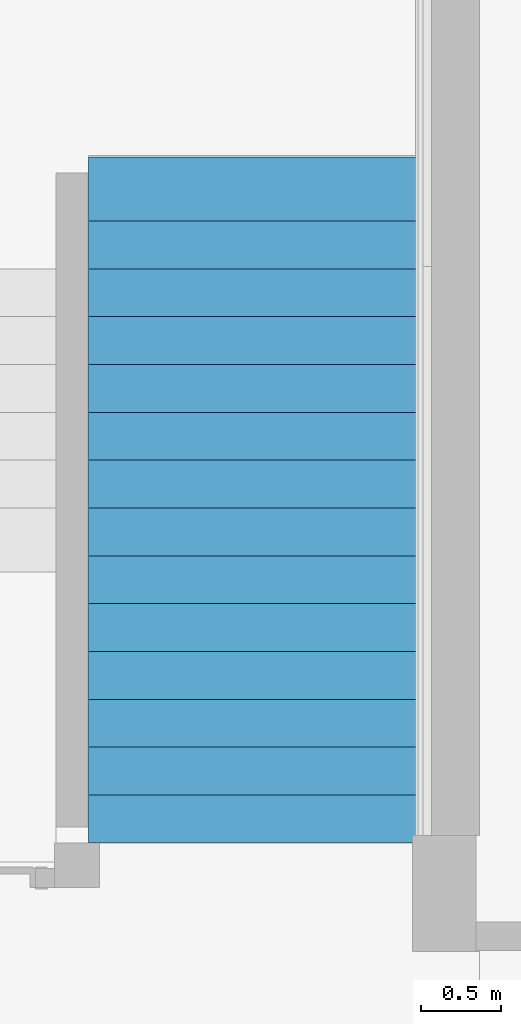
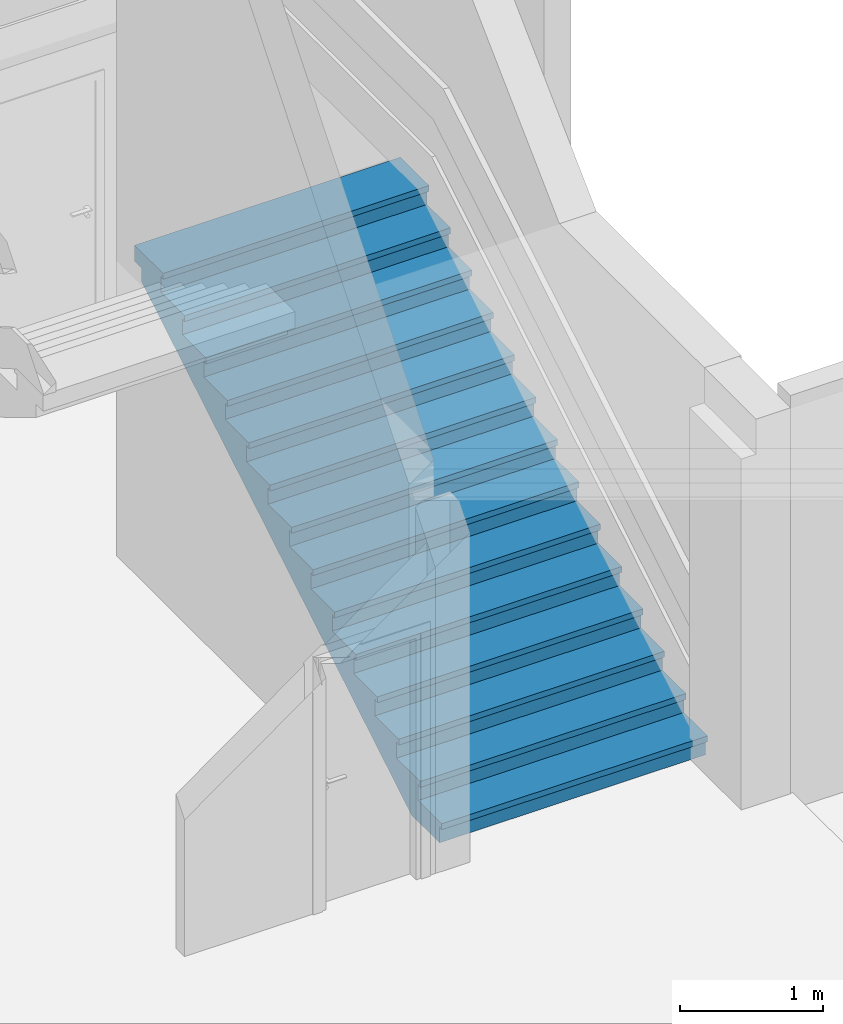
# One storey, part 101 of 117: 1 stair flight, 1 element without a shape of its own.
"""IFC4 building model written with IfcOpenShell, lengths in metres."""

from ifc_helpers import new_model, entity, si_unit, converted_unit, derived_unit, direction, frame, origin, place, context, subcontext, project, spatial, polygons, material, constituent, constituent_set, type_object, element, aggregate, save


model = new_model("IFC4")

# Units and contexts
model_context = context("Model", 3, precision=1e-05, world=origin(), true_north=direction((6.123031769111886e-17, 1.0)))
body_context = subcontext(model_context, "Body", "Model", "MODEL_VIEW")
ifc_project = project(units=[si_unit("LENGTHUNIT", "METRE"), si_unit("AREAUNIT", "SQUARE_METRE"), si_unit("VOLUMEUNIT", "CUBIC_METRE"), converted_unit("PLANEANGLEUNIT", "DEGREE", entity("IfcRatioMeasure", 0.017453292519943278), si_unit("PLANEANGLEUNIT", "RADIAN"), dimensions=[0, 0, 0, 0, 0, 0, 0]), si_unit("MASSUNIT", "GRAM", prefix="KILO"), derived_unit("MASSDENSITYUNIT", [(si_unit("MASSUNIT", "GRAM", prefix="KILO"), 1), (si_unit("LENGTHUNIT", "METRE"), -3)]), derived_unit("MOMENTOFINERTIAUNIT", [(si_unit("LENGTHUNIT", "METRE"), 4)]), si_unit("TIMEUNIT", "SECOND"), si_unit("FREQUENCYUNIT", "HERTZ"), si_unit("THERMODYNAMICTEMPERATUREUNIT", "DEGREE_CELSIUS"), derived_unit("THERMALTRANSMITTANCEUNIT", [(si_unit("MASSUNIT", "GRAM", prefix="KILO"), 1), (si_unit("THERMODYNAMICTEMPERATUREUNIT", "KELVIN"), -1), (si_unit("TIMEUNIT", "SECOND"), -3)]), derived_unit("VOLUMETRICFLOWRATEUNIT", [(si_unit("LENGTHUNIT", "METRE"), 3), (si_unit("TIMEUNIT", "SECOND"), -1)]), derived_unit("MASSFLOWRATEUNIT", [(si_unit("MASSUNIT", "GRAM", prefix="KILO"), 1), (si_unit("TIMEUNIT", "SECOND"), -1)]), derived_unit("ROTATIONALFREQUENCYUNIT", [(si_unit("TIMEUNIT", "SECOND"), -1)]), si_unit("ELECTRICCURRENTUNIT", "AMPERE"), si_unit("ELECTRICVOLTAGEUNIT", "VOLT"), si_unit("POWERUNIT", "WATT"), si_unit("FORCEUNIT", "NEWTON", prefix="KILO"), si_unit("ILLUMINANCEUNIT", "LUX"), si_unit("LUMINOUSFLUXUNIT", "LUMEN"), si_unit("LUMINOUSINTENSITYUNIT", "CANDELA"), derived_unit("USERDEFINED", [(si_unit("MASSUNIT", "GRAM", prefix="KILO"), -1), (si_unit("LENGTHUNIT", "METRE"), -2), (si_unit("TIMEUNIT", "SECOND"), 3), (si_unit("LUMINOUSFLUXUNIT", "LUMEN"), 1)]), derived_unit("SOUNDPOWERUNIT", [(si_unit("MASSUNIT", "GRAM", prefix="KILO"), 1), (si_unit("LENGTHUNIT", "METRE"), 2), (si_unit("TIMEUNIT", "SECOND"), -3)]), derived_unit("SOUNDPRESSUREUNIT", [(si_unit("MASSUNIT", "GRAM", prefix="KILO"), 1), (si_unit("LENGTHUNIT", "METRE"), -1), (si_unit("TIMEUNIT", "SECOND"), -2)]), derived_unit("LINEARVELOCITYUNIT", [(si_unit("LENGTHUNIT", "METRE"), 1), (si_unit("TIMEUNIT", "SECOND"), -1)]), si_unit("PRESSUREUNIT", "PASCAL"), derived_unit("USERDEFINED", [(si_unit("LENGTHUNIT", "METRE"), -2), (si_unit("MASSUNIT", "GRAM", prefix="KILO"), 1), (si_unit("TIMEUNIT", "SECOND"), -2)]), derived_unit("LINEARFORCEUNIT", [(si_unit("MASSUNIT", "GRAM", prefix="KILO"), 1), (si_unit("LENGTHUNIT", "METRE"), 1), (si_unit("TIMEUNIT", "SECOND"), -2), (si_unit("LENGTHUNIT", "METRE"), -1)]), derived_unit("PLANARFORCEUNIT", [(si_unit("MASSUNIT", "GRAM", prefix="KILO"), 1), (si_unit("LENGTHUNIT", "METRE"), 1), (si_unit("TIMEUNIT", "SECOND"), -2), (si_unit("LENGTHUNIT", "METRE"), -2)])], contexts=[model_context])

# Site, building, storey
site_placement = place(None, origin())
site = spatial("IfcSite", under=ifc_project, at=site_placement, Name="Superficie", CompositionType="ELEMENT")
building_placement = place(site_placement, origin())
building = spatial("IfcBuilding", under=site, at=building_placement, CompositionType="ELEMENT")
storey_placement = place(building_placement, origin())
storey = spatial("IfcBuildingStorey", under=building, at=storey_placement, Name="Nivel 0", CompositionType="ELEMENT", Elevation=0.0)

# Stair, stair flight
stair_type = type_object("IfcStairType", Name="Escalera prefabricada:Escalera prefabricada", PredefinedType="HALF_TURN_STAIR")
stair_placement = place(storey_placement, origin())
stair = element("IfcStair", 1, at=stair_placement, inside=storey, type_object=stair_type, Name="Escalera prefabricada:Escalera", ObjectType="Escalera prefabricada:Escalera prefabricada", PredefinedType="HALF_TURN_STAIR")
ifc_material_1 = material(Name="Cerámica blanca", Category="Cerámica")
ifc_constituent_1 = constituent(ifc_material_1, Name="Cerámica blanca", Category="Cerámica")
ifc_material_2 = material(Name="Hormigón", Category="Hormigón")
ifc_constituent_2 = constituent(ifc_material_2, Name="Hormigón", Category="Hormigón")
ifc_constituent_set = constituent_set(constituents=[ifc_constituent_1, ifc_constituent_2], Name="MaterialConstituentSet")
stair_flight_type = type_object("IfcStairFlightType", Name="Tramo monolítico:Huella 40 mm Mamperlán 30 mm Contrahuella 15 mm", PredefinedType="STRAIGHT")
stair_flight_placement = place(stair_placement, frame((23.226799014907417, -3.4641708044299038, 0.0)))
stair_flight = element("IfcStairFlight", 2, at=stair_flight_placement, type_object=stair_flight_type, material=ifc_constituent_set, Name="Escalera prefabricada:Escalera:227558 Run 1", ObjectType="Tramo monolítico:Huella 40 mm Mamperlán 30 mm Contrahuella 15 mm", PredefinedType="STRAIGHT", context=body_context, shape_type="Tessellation", body=[
    polygons([(2.1499999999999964, -5.414335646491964e-16, 0.13), (2.1499999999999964, -5.414335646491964e-16, 0.18), (0.0, -5.414335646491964e-16, 0.18), (0.0, -5.414335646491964e-16, 0.13), (2.1499999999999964, 0.023000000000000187, 0.13), (0.0, 0.023000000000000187, 0.13), (2.1499999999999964, 0.022999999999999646, 0.13999999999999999), (0.0, 0.022999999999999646, 0.13999999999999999), (2.1499999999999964, 0.3450000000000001, 0.18), (0.0, 0.3450000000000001, 0.18), (0.0, 0.3450000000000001, 0.13999999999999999), (2.1499999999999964, 0.3450000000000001, 0.13999999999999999)], [[[1, 2, 3, 4]], [[5, 1, 4, 6]], [[7, 5, 6, 8]], [[3, 2, 9, 10]], [[11, 12, 7, 8]], [[3, 10, 11, 8, 6, 4]], [[9, 2, 1, 5, 7, 12]], [[10, 9, 12, 11]]], closed=True),
    polygons([(2.1499999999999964, 0.030000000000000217, 0.13999999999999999), (2.1499999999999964, 0.030000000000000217, 0.0), (2.1499999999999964, 0.04499999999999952, 0.0), (2.1499999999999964, 0.04499999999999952, 0.13999999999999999), (0.0, 0.030000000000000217, 0.13999999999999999), (0.0, 0.04499999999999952, 0.13999999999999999), (0.0, 0.04499999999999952, 0.0), (0.0, 0.030000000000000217, 0.0)], [[[1, 2, 3, 4]], [[5, 6, 7, 8]], [[2, 1, 5, 8]], [[3, 2, 8, 7]], [[4, 3, 7, 6]], [[1, 4, 6, 5]]], closed=True),
    polygons([(2.1499999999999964, 0.3299999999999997, 0.32), (2.1499999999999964, 0.3299999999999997, 0.18), (2.1499999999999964, 0.34499999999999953, 0.18000000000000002), (2.1499999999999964, 0.34499999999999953, 0.32), (0.0, 0.3299999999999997, 0.32), (0.0, 0.34499999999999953, 0.32), (0.0, 0.34499999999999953, 0.18000000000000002), (0.0, 0.3299999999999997, 0.18)], [[[1, 2, 3, 4]], [[5, 6, 7, 8]], [[2, 1, 5, 8]], [[3, 2, 8, 7]], [[4, 3, 7, 6]], [[1, 4, 6, 5]]], closed=True),
    polygons([(0.0, 0.30000000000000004, 0.36), (2.1499999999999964, 0.30000000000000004, 0.36), (2.1499999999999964, 0.6450000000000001, 0.36), (0.0, 0.6450000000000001, 0.36), (0.0, 0.6450000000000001, 0.32), (2.1499999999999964, 0.6450000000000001, 0.32), (2.1499999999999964, 0.3229999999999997, 0.32), (0.0, 0.3229999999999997, 0.32), (0.0, 0.3229999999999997, 0.31), (0.0, 0.30000000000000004, 0.31), (2.1499999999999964, 0.30000000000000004, 0.31), (2.1499999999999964, 0.3229999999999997, 0.31)], [[[1, 2, 3, 4]], [[5, 6, 7, 8]], [[1, 4, 5, 8, 9, 10]], [[3, 2, 11, 12, 7, 6]], [[4, 3, 6, 5]], [[11, 2, 1, 10]], [[12, 11, 10, 9]], [[7, 12, 9, 8]]], closed=True),
    polygons([(2.1499999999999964, 0.6300000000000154, 0.5), (2.1499999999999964, 0.6300000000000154, 0.36000000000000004), (2.1499999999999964, 0.6450000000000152, 0.36000000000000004), (2.1499999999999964, 0.6450000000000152, 0.5), (0.0, 0.6300000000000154, 0.5), (0.0, 0.6450000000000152, 0.5), (0.0, 0.6450000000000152, 0.36000000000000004), (0.0, 0.6300000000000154, 0.36000000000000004)], [[[1, 2, 3, 4]], [[5, 6, 7, 8]], [[2, 1, 5, 8]], [[3, 2, 8, 7]], [[4, 3, 7, 6]], [[1, 4, 6, 5]]], closed=True),
    polygons([(0.0, 0.6000000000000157, 0.5399999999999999), (2.1499999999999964, 0.6000000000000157, 0.5399999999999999), (2.1499999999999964, 0.9450000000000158, 0.5399999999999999), (0.0, 0.9450000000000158, 0.5399999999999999), (0.0, 0.9450000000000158, 0.5), (2.1499999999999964, 0.9450000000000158, 0.5), (2.1499999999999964, 0.6230000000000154, 0.5), (0.0, 0.6230000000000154, 0.5), (0.0, 0.6230000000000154, 0.48999999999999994), (0.0, 0.6000000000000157, 0.48999999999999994), (2.1499999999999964, 0.6000000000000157, 0.48999999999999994), (2.1499999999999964, 0.6230000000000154, 0.48999999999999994)], [[[1, 2, 3, 4]], [[5, 6, 7, 8]], [[1, 4, 5, 8, 9, 10]], [[3, 2, 11, 12, 7, 6]], [[4, 3, 6, 5]], [[11, 2, 1, 10]], [[12, 11, 10, 9]], [[7, 12, 9, 8]]], closed=True),
    polygons([(2.150000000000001, 0.9299999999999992, 0.68), (2.150000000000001, 0.9299999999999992, 0.5399999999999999), (2.150000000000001, 0.9449999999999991, 0.5399999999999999), (2.150000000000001, 0.9449999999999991, 0.68), (4.331468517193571e-15, 0.9299999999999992, 0.68), (4.331468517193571e-15, 0.9449999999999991, 0.68), (4.331468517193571e-15, 0.9449999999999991, 0.5399999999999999), (4.331468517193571e-15, 0.9299999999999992, 0.5399999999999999)], [[[1, 2, 3, 4]], [[5, 6, 7, 8]], [[2, 1, 5, 8]], [[3, 2, 8, 7]], [[4, 3, 7, 6]], [[1, 4, 6, 5]]], closed=True),
    polygons([(4.331468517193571e-15, 0.8999999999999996, 0.72), (2.150000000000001, 0.8999999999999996, 0.72), (2.150000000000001, 1.2449999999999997, 0.72), (4.331468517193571e-15, 1.2449999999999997, 0.72), (4.331468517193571e-15, 1.2449999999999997, 0.68), (2.150000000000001, 1.2449999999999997, 0.68), (2.150000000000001, 0.9229999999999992, 0.68), (4.331468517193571e-15, 0.9229999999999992, 0.68), (4.331468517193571e-15, 0.9229999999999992, 0.6699999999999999), (4.331468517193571e-15, 0.8999999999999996, 0.6699999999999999), (2.150000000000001, 0.8999999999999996, 0.6699999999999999), (2.150000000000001, 0.9229999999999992, 0.6699999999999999)], [[[1, 2, 3, 4]], [[5, 6, 7, 8]], [[1, 4, 5, 8, 9, 10]], [[3, 2, 11, 12, 7, 6]], [[4, 3, 6, 5]], [[11, 2, 1, 10]], [[12, 11, 10, 9]], [[7, 12, 9, 8]]], closed=True),
    polygons([(2.150000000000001, 1.2299999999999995, 0.86), (2.150000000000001, 1.2299999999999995, 0.72), (2.150000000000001, 1.2449999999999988, 0.72), (2.150000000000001, 1.2449999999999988, 0.86), (4.331468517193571e-15, 1.2299999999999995, 0.86), (4.331468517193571e-15, 1.2449999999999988, 0.86), (4.331468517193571e-15, 1.2449999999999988, 0.72), (4.331468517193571e-15, 1.2299999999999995, 0.72)], [[[1, 2, 3, 4]], [[5, 6, 7, 8]], [[2, 1, 5, 8]], [[3, 2, 8, 7]], [[4, 3, 7, 6]], [[1, 4, 6, 5]]], closed=True),
    polygons([(4.331468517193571e-15, 1.1999999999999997, 0.8999999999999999), (2.150000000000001, 1.1999999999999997, 0.8999999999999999), (2.150000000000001, 1.5449999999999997, 0.8999999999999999), (4.331468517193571e-15, 1.5449999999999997, 0.8999999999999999), (4.331468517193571e-15, 1.5449999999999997, 0.86), (2.150000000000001, 1.5449999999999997, 0.86), (2.150000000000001, 1.2229999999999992, 0.86), (4.331468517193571e-15, 1.2229999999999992, 0.86), (4.331468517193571e-15, 1.2229999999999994, 0.85), (4.331468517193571e-15, 1.1999999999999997, 0.85), (2.150000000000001, 1.1999999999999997, 0.85), (2.150000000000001, 1.2229999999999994, 0.85)], [[[1, 2, 3, 4]], [[5, 6, 7, 8]], [[1, 4, 5, 8, 9, 10]], [[3, 2, 11, 12, 7, 6]], [[4, 3, 6, 5]], [[11, 2, 1, 10]], [[12, 11, 10, 9]], [[7, 12, 9, 8]]], closed=True),
    polygons([(2.150000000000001, 1.529999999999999, 1.04), (2.150000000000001, 1.529999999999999, 0.9), (2.150000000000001, 1.5449999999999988, 0.9), (2.150000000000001, 1.5449999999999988, 1.04), (4.331468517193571e-15, 1.529999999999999, 1.04), (4.331468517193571e-15, 1.5449999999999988, 1.04), (4.331468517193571e-15, 1.5449999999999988, 0.9), (4.331468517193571e-15, 1.529999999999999, 0.9)], [[[1, 2, 3, 4]], [[5, 6, 7, 8]], [[2, 1, 5, 8]], [[3, 2, 8, 7]], [[4, 3, 7, 6]], [[1, 4, 6, 5]]], closed=True),
    polygons([(4.331468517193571e-15, 1.4999999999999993, 1.0799999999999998), (2.150000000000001, 1.4999999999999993, 1.0799999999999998), (2.150000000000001, 1.8449999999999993, 1.0799999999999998), (4.331468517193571e-15, 1.8449999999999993, 1.0799999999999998), (4.331468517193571e-15, 1.8449999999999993, 1.04), (2.150000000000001, 1.8449999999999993, 1.04), (2.150000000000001, 1.522999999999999, 1.04), (4.331468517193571e-15, 1.522999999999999, 1.04), (4.331468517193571e-15, 1.5229999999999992, 1.0300000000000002), (4.331468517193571e-15, 1.4999999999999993, 1.0300000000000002), (2.150000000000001, 1.4999999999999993, 1.0300000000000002), (2.150000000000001, 1.5229999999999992, 1.0300000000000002)], [[[1, 2, 3, 4]], [[5, 6, 7, 8]], [[1, 4, 5, 8, 9, 10]], [[3, 2, 11, 12, 7, 6]], [[4, 3, 6, 5]], [[11, 2, 1, 10]], [[12, 11, 10, 9]], [[7, 12, 9, 8]]], closed=True),
    polygons([(2.150000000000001, 1.829999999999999, 1.22), (2.150000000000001, 1.829999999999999, 1.0799999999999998), (2.150000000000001, 1.8449999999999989, 1.0799999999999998), (2.150000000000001, 1.8449999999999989, 1.22), (4.331468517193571e-15, 1.829999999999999, 1.22), (4.331468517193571e-15, 1.8449999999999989, 1.22), (4.331468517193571e-15, 1.8449999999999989, 1.0799999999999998), (4.331468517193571e-15, 1.829999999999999, 1.0799999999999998)], [[[1, 2, 3, 4]], [[5, 6, 7, 8]], [[2, 1, 5, 8]], [[3, 2, 8, 7]], [[4, 3, 7, 6]], [[1, 4, 6, 5]]], closed=True),
    polygons([(4.331468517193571e-15, 1.7999999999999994, 1.26), (2.150000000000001, 1.7999999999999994, 1.26), (2.150000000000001, 2.1449999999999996, 1.26), (4.331468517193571e-15, 2.1449999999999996, 1.26), (4.331468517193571e-15, 2.1449999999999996, 1.22), (2.150000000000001, 2.1449999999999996, 1.22), (2.150000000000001, 1.822999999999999, 1.22), (4.331468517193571e-15, 1.822999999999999, 1.22), (4.331468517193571e-15, 1.8229999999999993, 1.21), (4.331468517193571e-15, 1.7999999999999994, 1.21), (2.150000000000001, 1.7999999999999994, 1.21), (2.150000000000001, 1.8229999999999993, 1.21)], [[[1, 2, 3, 4]], [[5, 6, 7, 8]], [[1, 4, 5, 8, 9, 10]], [[3, 2, 11, 12, 7, 6]], [[4, 3, 6, 5]], [[11, 2, 1, 10]], [[12, 11, 10, 9]], [[7, 12, 9, 8]]], closed=True),
    polygons([(2.150000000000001, 2.129999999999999, 1.4000000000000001), (2.150000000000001, 2.129999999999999, 1.26), (2.150000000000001, 2.1449999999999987, 1.26), (2.150000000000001, 2.1449999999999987, 1.4000000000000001), (4.331468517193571e-15, 2.129999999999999, 1.4000000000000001), (4.331468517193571e-15, 2.1449999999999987, 1.4000000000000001), (4.331468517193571e-15, 2.1449999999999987, 1.26), (4.331468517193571e-15, 2.129999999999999, 1.26)], [[[1, 2, 3, 4]], [[5, 6, 7, 8]], [[2, 1, 5, 8]], [[3, 2, 8, 7]], [[4, 3, 7, 6]], [[1, 4, 6, 5]]], closed=True),
    polygons([(4.331468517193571e-15, 2.099999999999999, 1.44), (2.150000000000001, 2.099999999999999, 1.44), (2.150000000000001, 2.445, 1.44), (4.331468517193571e-15, 2.445, 1.44), (4.331468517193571e-15, 2.445, 1.4000000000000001), (2.150000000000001, 2.445, 1.4), (2.150000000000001, 2.122999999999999, 1.4), (4.331468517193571e-15, 2.122999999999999, 1.4000000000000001), (4.331468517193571e-15, 2.1229999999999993, 1.39), (4.331468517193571e-15, 2.099999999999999, 1.39), (2.150000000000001, 2.099999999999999, 1.39), (2.150000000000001, 2.1229999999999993, 1.39)], [[[1, 2, 3, 4]], [[5, 6, 7, 8]], [[1, 4, 5, 8, 9, 10]], [[3, 2, 11, 12, 7, 6]], [[4, 3, 6, 5]], [[11, 2, 1, 10]], [[12, 11, 10, 9]], [[7, 12, 9, 8]]], closed=True),
    polygons([(2.150000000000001, 2.4299999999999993, 1.5799999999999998), (2.150000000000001, 2.4299999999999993, 1.44), (2.150000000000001, 2.444999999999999, 1.44), (2.150000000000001, 2.444999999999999, 1.5799999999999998), (4.331468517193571e-15, 2.4299999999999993, 1.5799999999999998), (4.331468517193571e-15, 2.444999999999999, 1.5799999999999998), (4.331468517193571e-15, 2.444999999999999, 1.44), (4.331468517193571e-15, 2.4299999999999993, 1.44)], [[[1, 2, 3, 4]], [[5, 6, 7, 8]], [[2, 1, 5, 8]], [[3, 2, 8, 7]], [[4, 3, 7, 6]], [[1, 4, 6, 5]]], closed=True),
    polygons([(4.331468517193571e-15, 2.399999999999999, 1.6199999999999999), (2.150000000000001, 2.3999999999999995, 1.6199999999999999), (2.150000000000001, 2.7449999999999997, 1.6199999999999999), (4.331468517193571e-15, 2.7449999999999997, 1.6199999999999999), (4.331468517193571e-15, 2.7449999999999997, 1.5799999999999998), (2.150000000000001, 2.7449999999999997, 1.5799999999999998), (2.150000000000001, 2.4229999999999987, 1.5799999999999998), (4.331468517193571e-15, 2.422999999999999, 1.5799999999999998), (4.331468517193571e-15, 2.422999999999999, 1.5699999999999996), (4.331468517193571e-15, 2.3999999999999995, 1.5699999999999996), (2.150000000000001, 2.3999999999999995, 1.5699999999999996), (2.150000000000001, 2.422999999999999, 1.5699999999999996)], [[[1, 2, 3, 4]], [[5, 6, 7, 8]], [[1, 4, 5, 8, 9, 10]], [[3, 2, 11, 12, 7, 6]], [[4, 3, 6, 5]], [[11, 2, 1, 10]], [[12, 11, 10, 9]], [[7, 12, 9, 8]]], closed=True),
    polygons([(2.150000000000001, 2.730000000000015, 1.7599999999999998), (2.150000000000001, 2.730000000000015, 1.6199999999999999), (2.150000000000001, 2.7450000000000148, 1.6199999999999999), (2.150000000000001, 2.7450000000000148, 1.7599999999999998), (4.331468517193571e-15, 2.730000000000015, 1.7599999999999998), (4.331468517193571e-15, 2.7450000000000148, 1.7599999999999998), (4.331468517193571e-15, 2.7450000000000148, 1.6199999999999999), (4.331468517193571e-15, 2.730000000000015, 1.6199999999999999)], [[[1, 2, 3, 4]], [[5, 6, 7, 8]], [[2, 1, 5, 8]], [[3, 2, 8, 7]], [[4, 3, 7, 6]], [[1, 4, 6, 5]]], closed=True),
    polygons([(4.331468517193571e-15, 2.700000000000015, 1.7999999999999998), (2.150000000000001, 2.7000000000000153, 1.7999999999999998), (2.150000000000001, 3.0450000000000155, 1.7999999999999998), (4.331468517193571e-15, 3.0450000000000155, 1.7999999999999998), (4.331468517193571e-15, 3.0450000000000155, 1.7599999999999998), (2.150000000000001, 3.0450000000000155, 1.7599999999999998), (2.150000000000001, 2.7230000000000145, 1.7599999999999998), (4.331468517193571e-15, 2.723000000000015, 1.7599999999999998), (4.331468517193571e-15, 2.723000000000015, 1.7499999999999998), (4.331468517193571e-15, 2.7000000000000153, 1.7499999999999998), (2.150000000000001, 2.7000000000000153, 1.7499999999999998), (2.150000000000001, 2.723000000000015, 1.7499999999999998)], [[[1, 2, 3, 4]], [[5, 6, 7, 8]], [[1, 4, 5, 8, 9, 10]], [[3, 2, 11, 12, 7, 6]], [[4, 3, 6, 5]], [[11, 2, 1, 10]], [[12, 11, 10, 9]], [[7, 12, 9, 8]]], closed=True),
    polygons([(2.1500000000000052, 3.029999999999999, 1.9399999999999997), (2.1500000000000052, 3.029999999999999, 1.7999999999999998), (2.1500000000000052, 3.0449999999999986, 1.7999999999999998), (2.1500000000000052, 3.0449999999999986, 1.9399999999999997), (8.662937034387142e-15, 3.029999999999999, 1.9399999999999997), (8.662937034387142e-15, 3.0449999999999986, 1.9399999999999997), (8.662937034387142e-15, 3.0449999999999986, 1.7999999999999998), (8.662937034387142e-15, 3.029999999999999, 1.7999999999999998)], [[[1, 2, 3, 4]], [[5, 6, 7, 8]], [[2, 1, 5, 8]], [[3, 2, 8, 7]], [[4, 3, 7, 6]], [[1, 4, 6, 5]]], closed=True),
    polygons([(8.662937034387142e-15, 2.999999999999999, 1.9799999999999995), (2.1500000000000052, 2.999999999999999, 1.9799999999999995), (2.1500000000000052, 3.3449999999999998, 1.9799999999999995), (8.662937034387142e-15, 3.3449999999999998, 1.9799999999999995), (8.662937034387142e-15, 3.3449999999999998, 1.9399999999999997), (2.1500000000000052, 3.3449999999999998, 1.9399999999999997), (2.1500000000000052, 3.022999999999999, 1.9399999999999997), (8.662937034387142e-15, 3.0229999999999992, 1.9399999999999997), (8.662937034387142e-15, 3.0229999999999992, 1.93), (8.662937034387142e-15, 2.9999999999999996, 1.93), (2.1500000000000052, 2.999999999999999, 1.93), (2.1500000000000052, 3.0229999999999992, 1.93)], [[[1, 2, 3, 4]], [[5, 6, 7, 8]], [[1, 4, 5, 8, 9, 10]], [[3, 2, 11, 12, 7, 6]], [[4, 3, 6, 5]], [[11, 2, 1, 10]], [[12, 11, 10, 9]], [[7, 12, 9, 8]]], closed=True),
    polygons([(2.1500000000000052, 3.3299999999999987, 2.12), (2.1500000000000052, 3.3299999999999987, 1.9800000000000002), (2.1500000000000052, 3.344999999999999, 1.9800000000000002), (2.1500000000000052, 3.344999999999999, 2.12), (8.662937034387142e-15, 3.3299999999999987, 2.12), (8.662937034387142e-15, 3.344999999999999, 2.12), (8.662937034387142e-15, 3.344999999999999, 1.9800000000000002), (8.662937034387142e-15, 3.3299999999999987, 1.9800000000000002)], [[[1, 2, 3, 4]], [[5, 6, 7, 8]], [[2, 1, 5, 8]], [[3, 2, 8, 7]], [[4, 3, 7, 6]], [[1, 4, 6, 5]]], closed=True),
    polygons([(8.662937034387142e-15, 3.2999999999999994, 2.1599999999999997), (2.1500000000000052, 3.2999999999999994, 2.1599999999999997), (2.1500000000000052, 3.644999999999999, 2.1599999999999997), (8.662937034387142e-15, 3.644999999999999, 2.1599999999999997), (8.662937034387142e-15, 3.644999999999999, 2.12), (2.1500000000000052, 3.644999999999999, 2.12), (2.1500000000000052, 3.322999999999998, 2.12), (8.662937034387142e-15, 3.3229999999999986, 2.12), (8.662937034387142e-15, 3.3229999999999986, 2.11), (8.662937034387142e-15, 3.2999999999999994, 2.11), (2.1500000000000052, 3.2999999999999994, 2.11), (2.1500000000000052, 3.3229999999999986, 2.11)], [[[1, 2, 3, 4]], [[5, 6, 7, 8]], [[1, 4, 5, 8, 9, 10]], [[3, 2, 11, 12, 7, 6]], [[4, 3, 6, 5]], [[11, 2, 1, 10]], [[12, 11, 10, 9]], [[7, 12, 9, 8]]], closed=True),
    polygons([(2.1500000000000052, 3.629999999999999, 2.3000000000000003), (2.1500000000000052, 3.629999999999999, 2.1599999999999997), (2.1500000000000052, 3.6449999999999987, 2.1599999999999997), (2.1500000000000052, 3.6449999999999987, 2.3000000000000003), (8.662937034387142e-15, 3.629999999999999, 2.3000000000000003), (8.662937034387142e-15, 3.6449999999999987, 2.3000000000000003), (8.662937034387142e-15, 3.6449999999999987, 2.1599999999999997), (8.662937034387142e-15, 3.629999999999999, 2.1599999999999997)], [[[1, 2, 3, 4]], [[5, 6, 7, 8]], [[2, 1, 5, 8]], [[3, 2, 8, 7]], [[4, 3, 7, 6]], [[1, 4, 6, 5]]], closed=True),
    polygons([(8.662937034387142e-15, 3.599999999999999, 2.34), (2.1500000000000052, 3.599999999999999, 2.34), (2.1500000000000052, 3.9449999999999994, 2.34), (8.662937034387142e-15, 3.9449999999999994, 2.34), (8.662937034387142e-15, 3.9449999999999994, 2.3000000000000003), (2.1500000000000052, 3.9449999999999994, 2.3), (2.1500000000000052, 3.6229999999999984, 2.3), (8.662937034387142e-15, 3.622999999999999, 2.3000000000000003), (8.662937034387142e-15, 3.622999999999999, 2.29), (8.662937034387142e-15, 3.599999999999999, 2.29), (2.1500000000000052, 3.599999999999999, 2.29), (2.1500000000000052, 3.622999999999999, 2.29)], [[[1, 2, 3, 4]], [[5, 6, 7, 8]], [[1, 4, 5, 8, 9, 10]], [[3, 2, 11, 12, 7, 6]], [[4, 3, 6, 5]], [[11, 2, 1, 10]], [[12, 11, 10, 9]], [[7, 12, 9, 8]]], closed=True),
    polygons([(2.1500000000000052, 3.9299999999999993, 2.48), (2.1500000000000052, 3.9299999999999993, 2.34), (2.1500000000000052, 3.9449999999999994, 2.34), (2.1500000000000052, 3.9449999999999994, 2.48), (8.662937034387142e-15, 3.9299999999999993, 2.48), (8.662937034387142e-15, 3.9449999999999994, 2.48), (8.662937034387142e-15, 3.9449999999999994, 2.34), (8.662937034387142e-15, 3.9299999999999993, 2.34)], [[[1, 2, 3, 4]], [[5, 6, 7, 8]], [[2, 1, 5, 8]], [[3, 2, 8, 7]], [[4, 3, 7, 6]], [[1, 4, 6, 5]]], closed=True),
    polygons([(8.662937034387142e-15, 3.899999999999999, 2.52), (2.1500000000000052, 3.899999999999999, 2.52), (2.1500000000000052, 4.199999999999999, 2.52), (2.1500000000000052, 4.299999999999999, 2.52), (8.662937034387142e-15, 4.299999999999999, 2.52), (8.662937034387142e-15, 4.299999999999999, 2.48), (2.1500000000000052, 4.299999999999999, 2.48), (2.1500000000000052, 4.199999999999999, 2.48), (2.1500000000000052, 3.9229999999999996, 2.48), (8.662937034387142e-15, 3.9229999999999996, 2.48), (8.662937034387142e-15, 3.9229999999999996, 2.47), (8.662937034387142e-15, 3.899999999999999, 2.47), (2.1500000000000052, 3.899999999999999, 2.47), (2.1500000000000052, 3.9229999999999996, 2.47)], [[[1, 2, 3, 4, 5]], [[6, 7, 8, 9, 10]], [[1, 5, 6, 10, 11, 12]], [[3, 2, 13, 14, 9, 8]], [[5, 4, 7, 6]], [[13, 2, 1, 12]], [[14, 13, 12, 11]], [[9, 14, 11, 10]], [[4, 3, 8, 7]]], closed=True),
    polygons([(0.0, 0.3450000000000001, 0.13999999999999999), (0.0, 0.04500000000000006, 0.13999999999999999), (2.1499999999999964, 0.04500000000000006, 0.13999999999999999), (2.1499999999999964, 0.3450000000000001, 0.13999999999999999), (0.0, 0.3450000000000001, 0.0), (0.0, 0.04500000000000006, 0.0), (2.1499999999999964, 0.04500000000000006, 0.0), (2.1499999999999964, 0.3450000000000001, 0.0), (0.0, 0.6450000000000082, 0.32), (0.0, 0.3450000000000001, 0.32), (2.1499999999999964, 0.3450000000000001, 0.32), (2.1499999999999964, 0.6450000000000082, 0.32), (0.0, 0.6449999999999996, 0.1334095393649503), (0.0, 0.42265076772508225, -9.023892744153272e-17), (2.1499999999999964, 0.42265076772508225, -9.023892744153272e-17), (2.1499999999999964, 0.6449999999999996, 0.1334095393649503), (0.0, 0.9450000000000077, 0.5), (0.0, 0.6450000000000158, 0.5), (2.1499999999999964, 0.6450000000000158, 0.5), (2.1499999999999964, 0.9450000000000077, 0.5), (4.331468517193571e-15, 0.9450000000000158, 0.3134095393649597), (2.150000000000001, 0.9450000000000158, 0.3134095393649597), (4.331468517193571e-15, 1.2449999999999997, 0.68), (4.331468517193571e-15, 0.9449999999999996, 0.68), (2.150000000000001, 0.9449999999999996, 0.68), (2.150000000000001, 1.2449999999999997, 0.68), (4.331468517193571e-15, 1.2449999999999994, 0.4934095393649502), (2.150000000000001, 1.2449999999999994, 0.4934095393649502), (4.331468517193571e-15, 1.5449999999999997, 0.86), (4.331468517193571e-15, 1.2449999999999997, 0.86), (2.150000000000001, 1.2449999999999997, 0.86), (2.150000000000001, 1.5449999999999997, 0.86), (4.331468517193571e-15, 1.5449999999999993, 0.6734095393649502), (2.150000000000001, 1.5449999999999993, 0.6734095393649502), (4.331468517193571e-15, 1.8449999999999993, 1.04), (4.331468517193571e-15, 1.5449999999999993, 1.04), (2.150000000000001, 1.5449999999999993, 1.04), (2.150000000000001, 1.8449999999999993, 1.04), (4.331468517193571e-15, 1.8449999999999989, 0.85340953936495), (2.150000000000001, 1.8449999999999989, 0.85340953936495), (4.331468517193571e-15, 2.1449999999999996, 1.22), (4.331468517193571e-15, 1.8449999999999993, 1.22), (2.150000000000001, 1.8449999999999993, 1.22), (2.150000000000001, 2.1449999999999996, 1.22), (4.331468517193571e-15, 2.144999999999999, 1.0334095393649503), (2.150000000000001, 2.144999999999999, 1.0334095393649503), (4.331468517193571e-15, 2.445, 1.4), (4.331468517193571e-15, 2.1449999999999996, 1.4), (2.150000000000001, 2.1449999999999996, 1.4), (2.150000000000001, 2.445, 1.4), (4.331468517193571e-15, 2.444999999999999, 1.2134095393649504), (2.150000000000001, 2.444999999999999, 1.2134095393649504), (4.331468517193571e-15, 2.745000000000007, 1.5799999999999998), (4.331468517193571e-15, 2.444999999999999, 1.5799999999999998), (2.150000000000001, 2.444999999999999, 1.5799999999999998), (2.150000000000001, 2.745000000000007, 1.5799999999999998), (4.331468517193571e-15, 2.7449999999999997, 1.3934095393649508), (2.150000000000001, 2.7449999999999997, 1.3934095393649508), (4.331468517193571e-15, 3.0450000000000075, 1.7599999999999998), (4.331468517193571e-15, 2.7450000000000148, 1.7599999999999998), (2.150000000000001, 2.7450000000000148, 1.7599999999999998), (2.150000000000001, 3.0450000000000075, 1.7599999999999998), (4.331468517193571e-15, 3.0450000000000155, 1.57340953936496), (2.150000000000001, 3.045000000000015, 1.5734095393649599), (8.662937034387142e-15, 3.3449999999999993, 1.9399999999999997), (8.662937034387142e-15, 3.045, 1.9399999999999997), (2.1500000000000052, 3.045, 1.9399999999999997), (2.1500000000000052, 3.3449999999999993, 1.9399999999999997), (8.662937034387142e-15, 3.3449999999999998, 1.7534095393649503), (2.1500000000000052, 3.3449999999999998, 1.7534095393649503), (8.662937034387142e-15, 3.644999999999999, 2.12), (8.662937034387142e-15, 3.344999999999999, 2.12), (2.1500000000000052, 3.344999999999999, 2.12), (2.1500000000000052, 3.6449999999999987, 2.12), (8.662937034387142e-15, 3.644999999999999, 1.9334095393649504), (2.1500000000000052, 3.6449999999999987, 1.9334095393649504), (8.662937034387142e-15, 3.9449999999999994, 2.3), (8.662937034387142e-15, 3.6449999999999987, 2.3), (2.1500000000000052, 3.6449999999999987, 2.3), (2.1500000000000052, 3.9449999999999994, 2.3), (8.662937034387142e-15, 3.9449999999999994, 2.1134095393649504), (2.1500000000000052, 3.944999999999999, 2.1134095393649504), (8.662937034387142e-15, 3.9449999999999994, 2.48), (2.1500000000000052, 3.9449999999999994, 2.48), (2.1500000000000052, 4.299999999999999, 2.48), (8.662937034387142e-15, 4.299999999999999, 2.48), (8.662937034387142e-15, 4.299999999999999, 2.3799999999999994), (8.662937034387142e-15, 4.199999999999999, 2.3799999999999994), (8.662937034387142e-15, 4.199999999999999, 2.266409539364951), (2.1500000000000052, 4.199999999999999, 2.266409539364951), (2.1500000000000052, 4.199999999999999, 2.3799999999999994), (2.1500000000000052, 4.299999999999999, 2.3799999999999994)], [[[1, 2, 3, 4]], [[2, 1, 5, 6]], [[3, 2, 6, 7]], [[4, 3, 7, 8]], [[9, 10, 11, 12]], [[5, 1, 10, 9, 13, 14]], [[1, 4, 11, 10]], [[4, 8, 15, 16, 12, 11]], [[17, 18, 19, 20]], [[18, 17, 21, 13, 9]], [[9, 12, 19, 18]], [[20, 19, 12, 16, 22]], [[23, 24, 25, 26]], [[24, 23, 27, 21, 17]], [[17, 20, 25, 24]], [[26, 25, 20, 22, 28]], [[29, 30, 31, 32]], [[30, 29, 33, 27, 23]], [[23, 26, 31, 30]], [[32, 31, 26, 28, 34]], [[35, 36, 37, 38]], [[36, 35, 39, 33, 29]], [[29, 32, 37, 36]], [[38, 37, 32, 34, 40]], [[41, 42, 43, 44]], [[42, 41, 45, 39, 35]], [[35, 38, 43, 42]], [[44, 43, 38, 40, 46]], [[47, 48, 49, 50]], [[48, 47, 51, 45, 41]], [[41, 44, 49, 48]], [[50, 49, 44, 46, 52]], [[53, 54, 55, 56]], [[54, 53, 57, 51, 47]], [[47, 50, 55, 54]], [[56, 55, 50, 52, 58]], [[59, 60, 61, 62]], [[60, 59, 63, 57, 53]], [[53, 56, 61, 60]], [[62, 61, 56, 58, 64]], [[65, 66, 67, 68]], [[66, 65, 69, 63, 59]], [[59, 62, 67, 66]], [[68, 67, 62, 64, 70]], [[71, 72, 73, 74]], [[72, 71, 75, 69, 65]], [[65, 68, 73, 72]], [[74, 73, 68, 70, 76]], [[77, 78, 79, 80]], [[78, 77, 81, 75, 71]], [[71, 74, 79, 78]], [[80, 79, 74, 76, 82]], [[83, 84, 85, 86]], [[83, 86, 87, 88, 89, 81, 77]], [[77, 80, 84, 83]], [[85, 84, 80, 82, 90, 91, 92]], [[89, 88, 91, 90]], [[6, 5, 14, 15, 8, 7]], [[15, 14, 13, 21, 27, 33, 39, 45, 51, 57, 63, 69, 75, 81, 89, 90, 82, 76, 70, 64, 58, 52, 46, 40, 34, 28, 22, 16]], [[92, 91, 88, 87]], [[92, 87, 86, 85]]], closed=True),
])
aggregate(stair, [stair_flight])

save(model, "model.ifc")
